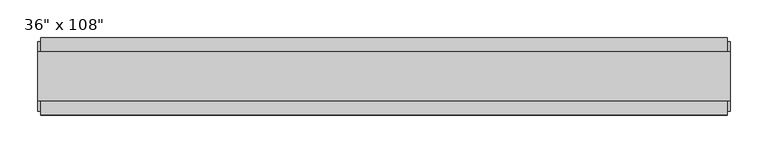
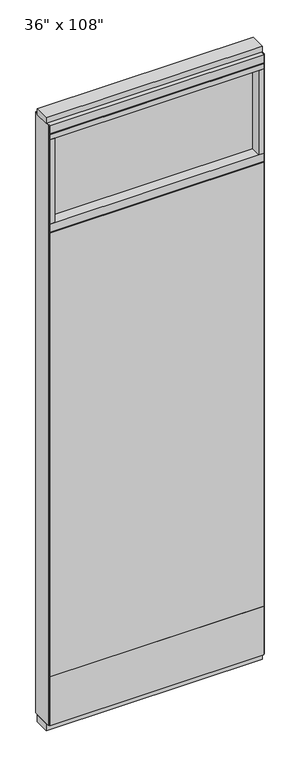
"""IFC4 building model written with IfcOpenShell, lengths in millimetres: furniture geometry."""

from ifc_helpers import new_model, si_unit, frame, origin, origin_with_axes, place, context, project, spatial, polyline, outline, extrude, source, transform, mapped, element, save


def furniture_b4820b19(model_context):
    return source(origin(), model_context, "Body", "SweptSolid", [
        extrude(outline(polyline([(393.2264771, -46.2822784), (-513.2995229, -46.2822784), (-513.2995229, -33.5822784), (393.2264771, -33.5822784), (393.2264771, -46.2822784)])), frame((0.0, 0.0, 249.936), z_axis=(0.0, 0.0, 1.0), x_axis=(1.0, 0.0, 0.0)), (0.0, 0.0, 1.0), 1985.264),
        extrude(outline(polyline([(393.2264771, 55.3177216), (393.2264771, 42.6177216), (-513.2995229, 42.6177216), (-513.2995229, 55.3177216), (393.2264771, 55.3177216)])), frame((0.0, 0.0, 249.936), z_axis=(0.0, 0.0, 1.0), x_axis=(1.0, 0.0, 0.0)), (0.0, 0.0, 1.0), 1985.264),
        extrude(outline(polyline([(393.2264771, -46.2822784), (-513.2995229, -46.2822784), (-513.2995229, -33.5822784), (393.2264771, -33.5822784), (393.2264771, -46.2822784)])), frame((0.0, 0.0, 31.75), z_axis=(0.0, 0.0, 1.0), x_axis=(1.0, 0.0, 0.0)), (0.0, 0.0, 1.0), 218.186),
        extrude(outline(polyline([(393.2264771, 55.3177216), (393.2264771, 42.6177216), (-513.2995229, 42.6177216), (-513.2995229, 55.3177216), (393.2264771, 55.3177216)])), frame((0.0, 0.0, 31.75), z_axis=(0.0, 0.0, 1.0), x_axis=(1.0, 0.0, 0.0)), (0.0, 0.0, 1.0), 218.186),
        extrude(outline(polyline([(371.0014771, 9.5977216), (371.0014771, -0.5622784), (-491.0745229, -0.5622784), (-491.0745229, 9.5977216), (371.0014771, 9.5977216)])), frame((0.0, 0.0, 2276.475), z_axis=(0.0, 0.0, 1.0), x_axis=(1.0, 0.0, 0.0)), (0.0, 0.0, 1.0), 377.825),
        extrude(outline(polyline([(371.0014771, 55.3177216), (393.2264771, 55.3177216), (393.2264771, -46.2822784), (371.0014771, -46.2822784), (371.0014771, 55.3177216)])), frame((0.0, 0.0, 2276.475), z_axis=(0.0, 0.0, 1.0), x_axis=(1.0, 0.0, 0.0)), (0.0, 0.0, 1.0), 377.825),
        extrude(outline(polyline([(55.3177216, 2240.153), (50.3647216, 2240.153), (50.3647216, 2235.2), (-41.3292784, 2235.2), (-41.3292784, 2240.153), (-46.2822784, 2240.153), (-46.2822784, 2276.475), (55.3177216, 2276.475), (55.3177216, 2240.153)])), frame((-513.2995229, 0.0, 0.0), z_axis=(1.0, 0.0, 0.0), x_axis=(0.0, 1.0, 0.0)), (0.0, 0.0, 1.0), 906.526),
        extrude(outline(polyline([(-491.0745229, 55.3177216), (-491.0745229, -46.2822784), (-513.2995229, -46.2822784), (-513.2995229, 55.3177216), (-491.0745229, 55.3177216)])), frame((0.0, 0.0, 2276.475), z_axis=(0.0, 0.0, 1.0), x_axis=(1.0, 0.0, 0.0)), (0.0, 0.0, 1.0), 377.825),
        extrude(outline(polyline([(397.1634771, -27.9942784), (-517.2365229, -27.9942784), (-517.2365229, 37.0297216), (397.1634771, 37.0297216), (397.1634771, -27.9942784)])), origin_with_axes(), (0.0, 0.0, 1.0), 31.75),
        extrude(outline(polyline([(-517.2365229, 37.0297216), (397.1634771, 37.0297216), (397.1634771, -27.9942784), (-517.2365229, -27.9942784), (-517.2365229, 37.0297216)])), frame((0.0, 0.0, 2717.8), z_axis=(0.0, 0.0, 1.0), x_axis=(1.0, 0.0, 0.0)), (0.0, 0.0, 1.0), 25.4),
        extrude(outline(polyline([(55.3177216, 2681.478), (50.3647216, 2681.478), (50.3647216, 2676.525), (-41.3292784, 2676.525), (-41.3292784, 2681.478), (-46.2822784, 2681.478), (-46.2822784, 2717.8), (55.3177216, 2717.8), (55.3177216, 2681.478)])), frame((-513.2995229, 0.0, 0.0), z_axis=(1.0, 0.0, 0.0), x_axis=(0.0, 1.0, 0.0)), (0.0, 0.0, 1.0), 906.526),
        extrude(outline(polyline([(393.2264771, -46.2822784), (-513.2995229, -46.2822784), (-513.2995229, 55.3177216), (393.2264771, 55.3177216), (393.2264771, -46.2822784)])), frame((0.0, 0.0, 2654.3), z_axis=(0.0, 0.0, 1.0), x_axis=(1.0, 0.0, 0.0)), (0.0, 0.0, 1.0), 22.225),
        extrude(outline(polyline([(397.1634771, 50.3647216), (397.1634771, -41.3292784), (393.2264771, -41.3292784), (393.2264771, 50.3647216), (397.1634771, 50.3647216)])), frame((0.0, 0.0, 31.75), z_axis=(0.0, 0.0, 1.0), x_axis=(1.0, 0.0, 0.0)), (0.0, 0.0, 1.0), 2686.05),
        extrude(outline(polyline([(-517.2365229, 50.3647216), (-513.2995229, 50.3647216), (-513.2995229, -41.3292784), (-517.2365229, -41.3292784), (-517.2365229, 50.3647216)])), frame((0.0, 0.0, 31.75), z_axis=(0.0, 0.0, 1.0), x_axis=(1.0, 0.0, 0.0)), (0.0, 0.0, 1.0), 2686.05),
    ])


if __name__ == "__main__":
    model = new_model("IFC4")
    model_context = context("Model", 3, world=origin())
    ifc_project = project(units=[si_unit("LENGTHUNIT", "METRE", prefix="MILLI")], contexts=[model_context])
    site = spatial("IfcSite", under=ifc_project)
    building = spatial("IfcBuilding", under=site)
    placement = place(None, origin())
    furniture_shape = furniture_b4820b19(model_context)
    element("IfcFurniture", 1, ObjectType="Haworth_Enclose_Wall_SolidTransom : 36\" x 108\"", at=placement, inside=building, context=model_context, shape_type="MappedRepresentation", body=[
        mapped(furniture_shape, transform((0.0, 0.0, 0.0), x_axis=(1.0, 0.0, 0.0), y_axis=(0.0, 1.0, 0.0), z_axis=(0.0, 0.0, 1.0))),
    ])
    save(model, "model.ifc")
